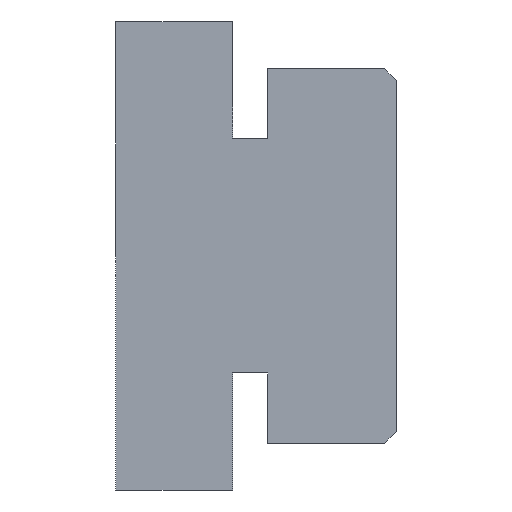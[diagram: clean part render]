
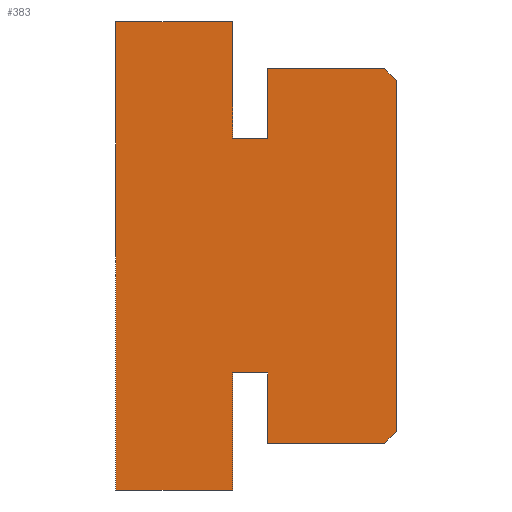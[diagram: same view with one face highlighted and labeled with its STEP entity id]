
A CAD part, left-side view. The second image highlights one B-rep face of the part: STEP entity #383.
In plain terms, the highlighted planar face has unit normal (-1, 0, 0).
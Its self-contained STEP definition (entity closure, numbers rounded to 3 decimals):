
#10 = ORIENTED_EDGE ( 'NONE', *, *, #109, .F. ) ;
#14 = CARTESIAN_POINT ( 'NONE',  ( 0., 7., 10. ) ) ;
#16 = CARTESIAN_POINT ( 'NONE',  ( 0., 5.5, 5. ) ) ;
#18 = VERTEX_POINT ( 'NONE', #272 ) ;
#21 = ORIENTED_EDGE ( 'NONE', *, *, #121, .F. ) ;
#22 = LINE ( 'NONE', #488, #282 ) ;
#31 = VECTOR ( 'NONE', #48, 1000. ) ;
#32 = VERTEX_POINT ( 'NONE', #243 ) ;
#36 = CARTESIAN_POINT ( 'NONE',  ( 0., 5.5, 8. ) ) ;
#40 = DIRECTION ( 'NONE',  ( 0., 0.707, -0.707 ) ) ;
#45 = DIRECTION ( 'NONE',  ( 0., -0.707, -0.707 ) ) ;
#46 = FACE_OUTER_BOUND ( 'NONE', #358, .T. ) ;
#48 = DIRECTION ( 'NONE',  ( 0., 0., 1. ) ) ;
#50 = ORIENTED_EDGE ( 'NONE', *, *, #104, .F. ) ;
#66 = DIRECTION ( 'NONE',  ( 0., 1., 0. ) ) ;
#68 = LINE ( 'NONE', #356, #206 ) ;
#73 = EDGE_CURVE ( 'NONE', #141, #254, #376, .T. ) ;
#80 = DIRECTION ( 'NONE',  ( 0., 0., 1. ) ) ;
#85 = CARTESIAN_POINT ( 'NONE',  ( 0., 5.5, 5. ) ) ;
#94 = VERTEX_POINT ( 'NONE', #123 ) ;
#95 = LINE ( 'NONE', #495, #239 ) ;
#98 = LINE ( 'NONE', #85, #31 ) ;
#100 = VERTEX_POINT ( 'NONE', #413 ) ;
#104 = EDGE_CURVE ( 'NONE', #473, #100, #68, .T. ) ;
#106 = EDGE_CURVE ( 'NONE', #100, #445, #411, .T. ) ;
#109 = EDGE_CURVE ( 'NONE', #94, #321, #509, .T. ) ;
#111 = CARTESIAN_POINT ( 'NONE',  ( 0., 0., 0. ) ) ;
#121 = EDGE_CURVE ( 'NONE', #18, #247, #146, .T. ) ;
#123 = CARTESIAN_POINT ( 'NONE',  ( 0., 5.5, -5. ) ) ;
#128 = CARTESIAN_POINT ( 'NONE',  ( 0., 0., -7.5 ) ) ;
#132 = ORIENTED_EDGE ( 'NONE', *, *, #301, .F. ) ;
#134 = CARTESIAN_POINT ( 'NONE',  ( 0., 5.5, -8. ) ) ;
#139 = EDGE_CURVE ( 'NONE', #262, #483, #219, .T. ) ;
#141 = VERTEX_POINT ( 'NONE', #318 ) ;
#146 = LINE ( 'NONE', #529, #460 ) ;
#159 = ORIENTED_EDGE ( 'NONE', *, *, #410, .F. ) ;
#162 = DIRECTION ( 'NONE',  ( 0., 0., -1. ) ) ;
#169 = CARTESIAN_POINT ( 'NONE',  ( 0., 5.5, -8. ) ) ;
#171 = ORIENTED_EDGE ( 'NONE', *, *, #415, .F. ) ;
#176 = VECTOR ( 'NONE', #300, 1000. ) ;
#183 = ORIENTED_EDGE ( 'NONE', *, *, #73, .F. ) ;
#186 = EDGE_CURVE ( 'NONE', #254, #94, #441, .T. ) ;
#201 = VECTOR ( 'NONE', #80, 1000. ) ;
#202 = DIRECTION ( 'NONE',  ( 0., 0., -1. ) ) ;
#205 = ORIENTED_EDGE ( 'NONE', *, *, #249, .F. ) ;
#206 = VECTOR ( 'NONE', #162, 1000. ) ;
#219 = LINE ( 'NONE', #409, #298 ) ;
#222 = LINE ( 'NONE', #259, #176 ) ;
#232 = DIRECTION ( 'NONE',  ( 0., 0., -1. ) ) ;
#233 = VECTOR ( 'NONE', #232, 1000. ) ;
#239 = VECTOR ( 'NONE', #246, 1000. ) ;
#243 = CARTESIAN_POINT ( 'NONE',  ( 0., 0.5, 8. ) ) ;
#246 = DIRECTION ( 'NONE',  ( 0., -1., 0. ) ) ;
#247 = VERTEX_POINT ( 'NONE', #128 ) ;
#248 = DIRECTION ( 'NONE',  ( 0., -1., 0. ) ) ;
#249 = EDGE_CURVE ( 'NONE', #432, #32, #95, .T. ) ;
#254 = VERTEX_POINT ( 'NONE', #169 ) ;
#259 = CARTESIAN_POINT ( 'NONE',  ( 0., 12., -10. ) ) ;
#262 = VERTEX_POINT ( 'NONE', #327 ) ;
#267 = LINE ( 'NONE', #292, #391 ) ;
#270 = DIRECTION ( 'NONE',  ( 0., 0., -1. ) ) ;
#272 = CARTESIAN_POINT ( 'NONE',  ( 0., 0., 7.5 ) ) ;
#281 = DIRECTION ( 'NONE',  ( 1., 0., 0. ) ) ;
#282 = VECTOR ( 'NONE', #45, 1000. ) ;
#283 = CARTESIAN_POINT ( 'NONE',  ( 0., 7., 5. ) ) ;
#287 = CARTESIAN_POINT ( 'NONE',  ( 0., 0.5, -8. ) ) ;
#291 = VECTOR ( 'NONE', #66, 1000. ) ;
#292 = CARTESIAN_POINT ( 'NONE',  ( 0., 12., 10. ) ) ;
#297 = ORIENTED_EDGE ( 'NONE', *, *, #106, .F. ) ;
#298 = VECTOR ( 'NONE', #489, 1000. ) ;
#300 = DIRECTION ( 'NONE',  ( 0., 1., 0. ) ) ;
#301 = EDGE_CURVE ( 'NONE', #445, #432, #98, .T. ) ;
#315 = DIRECTION ( 'NONE',  ( 0., -1., 0. ) ) ;
#318 = CARTESIAN_POINT ( 'NONE',  ( 0., 0.5, -8. ) ) ;
#321 = VERTEX_POINT ( 'NONE', #368 ) ;
#327 = CARTESIAN_POINT ( 'NONE',  ( 0., 12., -10. ) ) ;
#335 = ORIENTED_EDGE ( 'NONE', *, *, #186, .F. ) ;
#340 = VECTOR ( 'NONE', #40, 1000. ) ;
#342 = VECTOR ( 'NONE', #370, 1000. ) ;
#351 = CARTESIAN_POINT ( 'NONE',  ( 0., 7., -10. ) ) ;
#356 = CARTESIAN_POINT ( 'NONE',  ( 0., 7., 10. ) ) ;
#358 = EDGE_LOOP ( 'NONE', ( #205, #132, #297, #50, #472, #463, #395, #159, #10, #335, #183, #503, #21, #171 ) ) ;
#361 = PLANE ( 'NONE',  #369 ) ;
#368 = CARTESIAN_POINT ( 'NONE',  ( 0., 7., -5. ) ) ;
#369 = AXIS2_PLACEMENT_3D ( 'NONE', #111, #281, #270 ) ;
#370 = DIRECTION ( 'NONE',  ( 0., 1., 0. ) ) ;
#375 = VERTEX_POINT ( 'NONE', #351 ) ;
#376 = LINE ( 'NONE', #134, #291 ) ;
#383 = ADVANCED_FACE ( 'NONE', ( #46 ), #361, .F. ) ;
#384 = CARTESIAN_POINT ( 'NONE',  ( 0., 12., 10. ) ) ;
#391 = VECTOR ( 'NONE', #248, 1000. ) ;
#395 = ORIENTED_EDGE ( 'NONE', *, *, #448, .F. ) ;
#409 = CARTESIAN_POINT ( 'NONE',  ( 0., 12., -10. ) ) ;
#410 = EDGE_CURVE ( 'NONE', #321, #375, #450, .T. ) ;
#411 = LINE ( 'NONE', #283, #474 ) ;
#413 = CARTESIAN_POINT ( 'NONE',  ( 0., 7., 5. ) ) ;
#415 = EDGE_CURVE ( 'NONE', #32, #18, #22, .T. ) ;
#432 = VERTEX_POINT ( 'NONE', #36 ) ;
#438 = EDGE_CURVE ( 'NONE', #247, #141, #490, .T. ) ;
#441 = LINE ( 'NONE', #449, #201 ) ;
#445 = VERTEX_POINT ( 'NONE', #16 ) ;
#448 = EDGE_CURVE ( 'NONE', #375, #262, #222, .T. ) ;
#449 = CARTESIAN_POINT ( 'NONE',  ( 0., 5.5, -5. ) ) ;
#450 = LINE ( 'NONE', #512, #233 ) ;
#456 = CARTESIAN_POINT ( 'NONE',  ( 0., 7., -5. ) ) ;
#460 = VECTOR ( 'NONE', #202, 1000. ) ;
#463 = ORIENTED_EDGE ( 'NONE', *, *, #139, .F. ) ;
#472 = ORIENTED_EDGE ( 'NONE', *, *, #510, .F. ) ;
#473 = VERTEX_POINT ( 'NONE', #14 ) ;
#474 = VECTOR ( 'NONE', #315, 1000. ) ;
#483 = VERTEX_POINT ( 'NONE', #384 ) ;
#488 = CARTESIAN_POINT ( 'NONE',  ( 0., 0.5, 8. ) ) ;
#489 = DIRECTION ( 'NONE',  ( 0., 0., 1. ) ) ;
#490 = LINE ( 'NONE', #287, #340 ) ;
#495 = CARTESIAN_POINT ( 'NONE',  ( 0., 5.5, 8. ) ) ;
#503 = ORIENTED_EDGE ( 'NONE', *, *, #438, .F. ) ;
#509 = LINE ( 'NONE', #456, #342 ) ;
#510 = EDGE_CURVE ( 'NONE', #483, #473, #267, .T. ) ;
#512 = CARTESIAN_POINT ( 'NONE',  ( 0., 7., -10. ) ) ;
#529 = CARTESIAN_POINT ( 'NONE',  ( 0., 0., 7.5 ) ) ;
